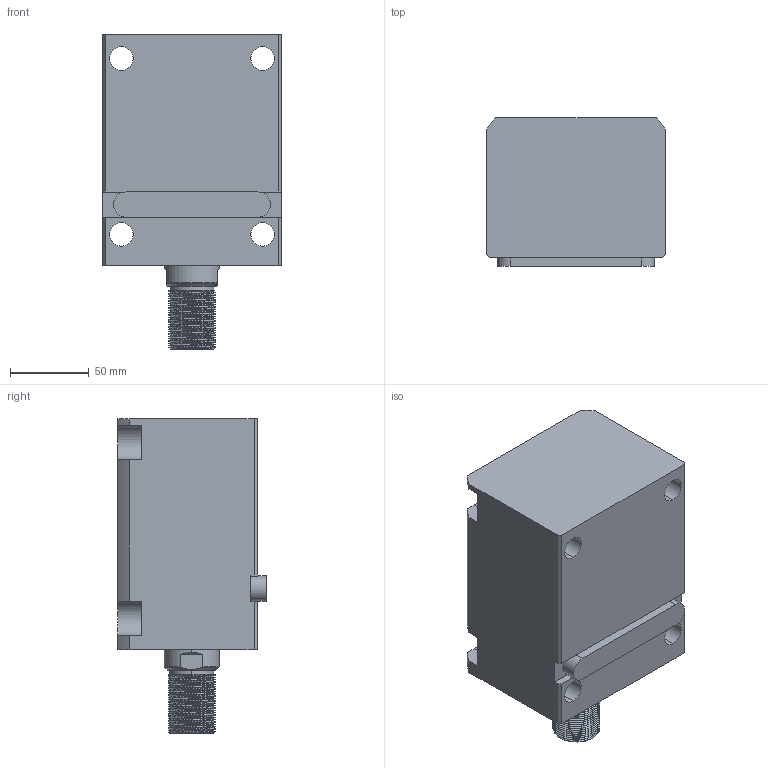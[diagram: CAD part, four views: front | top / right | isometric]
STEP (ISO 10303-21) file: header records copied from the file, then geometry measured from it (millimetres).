
FILE_DESCRIPTION (( 'STEP AP214' ), '1' );
FILE_NAME ('chtb-la63x80w_asm.STEP', '2018-05-17T03:10:20', ( 'Windows' ), ( 'Microsoft' ), 'SwSTEP 2.0', 'SolidWorks 2015', '' );
FILE_SCHEMA (( 'AUTOMOTIVE_DESIGN' ));
Length unit declared in the file: millimetre
Products named in the file (5): CHTB-LA63X80NBT; CHTB-LA63PJ; CHTB63X80WHSG; CHTB-63QG; chtb-la63x80w_asm
Assembly tree (4 placements, depth 2):
  chtb-la63x80w_asm
    CHTB-63QG
    CHTB63X80WHSG
    CHTB-LA63PJ
    CHTB-LA63X80NBT
Bounding box: 114 x 94.5 x 200 mm (x, y, z)
Volume: 1276737.6 mm3; surface area: 178295.6 mm2
Topology: 4 solids, 4 shells, 228 faces, 670 edges, 457 vertices
Faces by surface type: cylinder 147, plane 48, bspline 14, cone 13, torus 6
Entity records: 22769 total; most frequent: CARTESIAN_POINT 17126, ORIENTED_EDGE 1332, DIRECTION 940, EDGE_CURVE 666, VERTEX_POINT 457, AXIS2_PLACEMENT_3D 350, EDGE_LOOP 253, LINE 240
